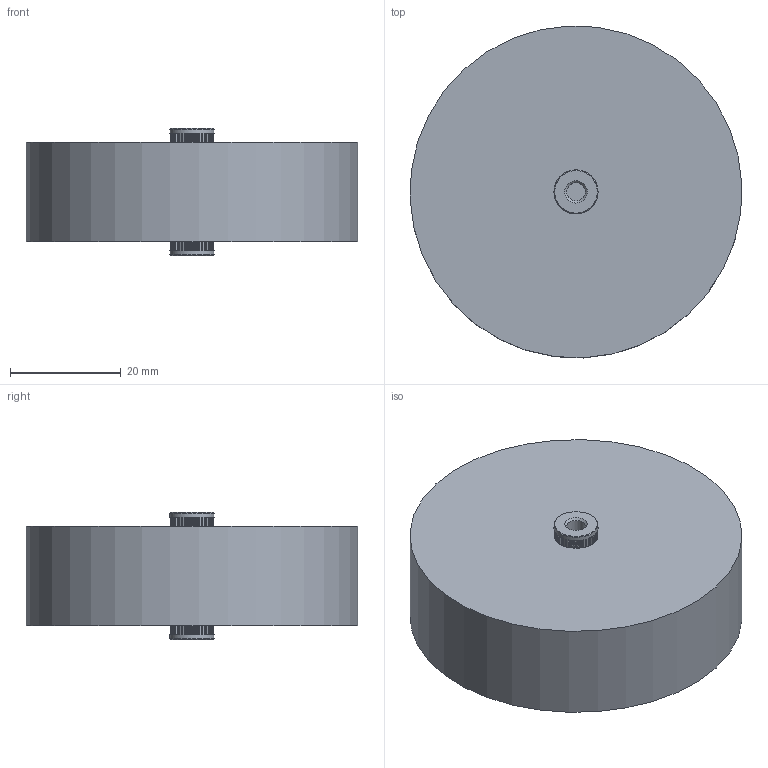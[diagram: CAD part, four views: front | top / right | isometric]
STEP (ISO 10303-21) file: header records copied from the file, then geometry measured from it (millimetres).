
FILE_DESCRIPTION((''),'2;1');
FILE_NAME('I:\Marketing\M6t1\M6T1 - Internal\Drawings\Werk 3\Finished product\Ceramite\Upload for homepage\715\Unterordner\715C20KTD40\715C20KTD40.stp','2013-06-10T15:30:29',('sherden'),(''),'Autodesk Inventor 2013','Autodesk Inventor 2013','');
FILE_SCHEMA(('AUTOMOTIVE_DESIGN { 1 2 10303 214 0 1 1 1 }'));
Length unit declared in the file: millimetre
Products named in the file (1): Bauteil5
Bounding box: 59.94 x 59.94 x 23 mm (x, y, z)
Volume: 50823 mm3; surface area: 9417 mm2
Topology: 1 solids, 1 shells, 575 faces, 1623 edges, 1054 vertices
Faces by surface type: plane 486, cylinder 85, cone 4
Full cylindrical faces by diameter (mm): 3.302 x2, 7.95 x2, 60 x1
Entity records: 18969 total; most frequent: CARTESIAN_POINT 3240, ORIENTED_EDGE 3224, DIRECTION 3096, EDGE_CURVE 1612, VECTOR 1280, LINE 1280, VERTEX_POINT 1052, AXIS2_PLACEMENT_3D 908
